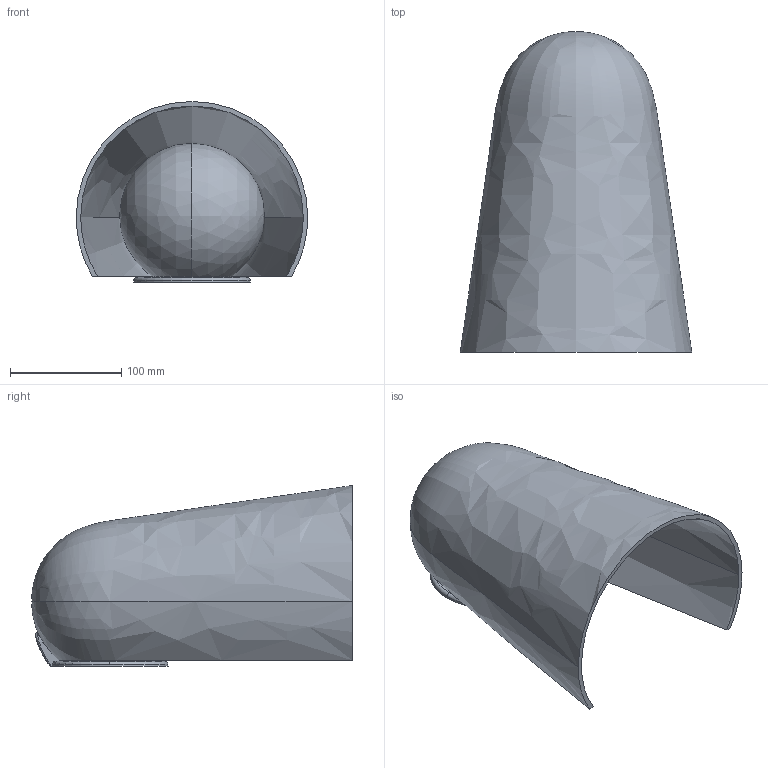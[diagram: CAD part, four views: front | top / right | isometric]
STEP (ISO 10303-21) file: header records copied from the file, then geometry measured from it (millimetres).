
FILE_DESCRIPTION (( 'STEP AP214' ), '1' );
FILE_NAME ('285_STD_W_LD_3D.STEP', '2021-05-31T11:00:18', ( '' ), ( '' ), 'SwSTEP 2.0', 'SolidWorks 2021', '' );
FILE_SCHEMA (( 'AUTOMOTIVE_DESIGN' ));
Length unit declared in the file: millimetre
Products named in the file (1): 285_STD_W_LD_3D
Bounding box: 207.94 x 288 x 162.47 mm (x, y, z)
Volume: 667795.5 mm3; surface area: 341086.1 mm2
Topology: 4 solids, 4 shells, 363 faces, 949 edges, 606 vertices
Faces by surface type: bspline 136, plane 102, cone 56, torus 37, cylinder 26, sphere 6
Entity records: 21076 total; most frequent: CARTESIAN_POINT 9237, ORIENTED_EDGE 1870, DIRECTION 1217, EDGE_CURVE 935, VERTEX_POINT 600, AXIS2_PLACEMENT_3D 473, EDGE_LOOP 403, B_SPLINE_CURVE_WITH_KNOTS 399
